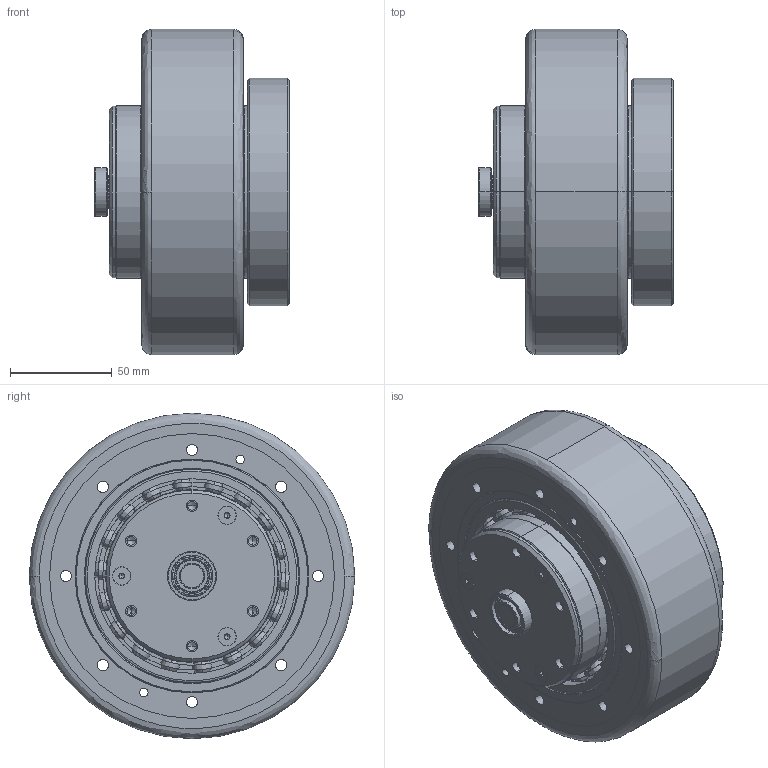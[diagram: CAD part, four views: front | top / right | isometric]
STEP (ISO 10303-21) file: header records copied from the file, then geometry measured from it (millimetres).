
FILE_DESCRIPTION (( 'STEP AP214' ), '1' );
FILE_NAME ('TYC 160 14Öá.STEP', '2022-04-20T05:39:05', ( '' ), ( '' ), 'SwSTEP 2.0', 'SolidWorks 2018', '' );
FILE_SCHEMA (( 'AUTOMOTIVE_DESIGN' ));
Length unit declared in the file: millimetre
Products named in the file (1): TYC 160 14粣
Bounding box: 95.5 x 160 x 160 mm (x, y, z)
Volume: 1224869.2 mm3; surface area: 217013 mm2
Topology: 5 solids, 18 shells, 1084 faces, 2971 edges, 1913 vertices
Faces by surface type: bspline 368, cylinder 343, plane 236, cone 137
Entity records: 47453 total; most frequent: CARTESIAN_POINT 22021, ORIENTED_EDGE 5846, DIRECTION 4692, EDGE_CURVE 2923, AXIS2_PLACEMENT_3D 2037, VERTEX_POINT 1913, CIRCLE 1320, EDGE_LOOP 1298
